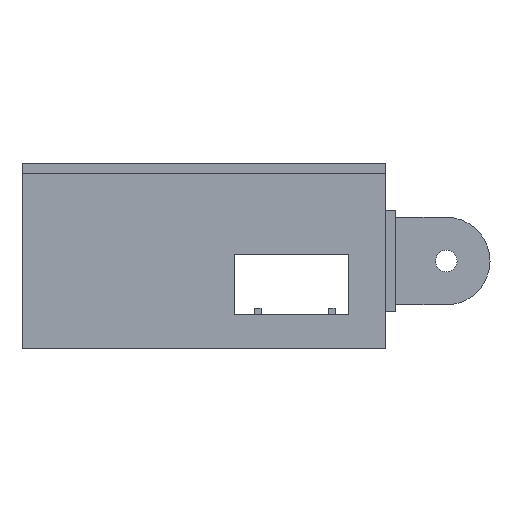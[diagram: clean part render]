
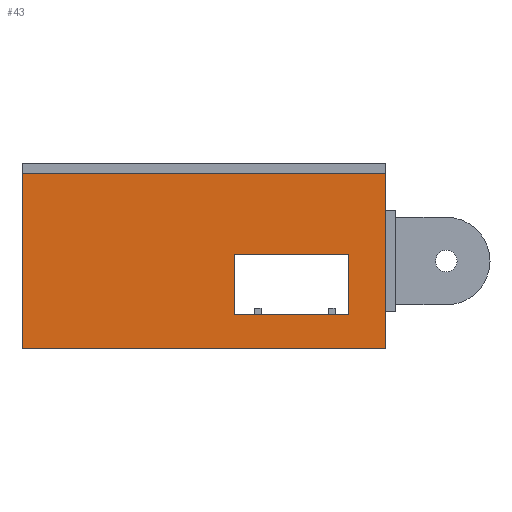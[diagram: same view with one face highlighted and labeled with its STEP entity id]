
A CAD part, left-side view. The second image highlights one B-rep face of the part: STEP entity #43.
In plain terms, the highlighted planar face has unit normal (-1, 0, 0).
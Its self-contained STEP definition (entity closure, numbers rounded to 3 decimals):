
#43 = ADVANCED_FACE('',(#44,#163),#58,.F.);
#44 = FACE_BOUND('',#45,.F.);
#45 = EDGE_LOOP('',(#46,#81,#109,#137));
#46 = ORIENTED_EDGE('',*,*,#47,.F.);
#47 = EDGE_CURVE('',#48,#50,#52,.T.);
#48 = VERTEX_POINT('',#49);
#49 = CARTESIAN_POINT('',(0.,0.,0.));
#50 = VERTEX_POINT('',#51);
#51 = CARTESIAN_POINT('',(0.,0.,52.));
#52 = SURFACE_CURVE('',#53,(#57,#69),.PCURVE_S1.);
#53 = LINE('',#54,#55);
#54 = CARTESIAN_POINT('',(0.,0.,0.));
#55 = VECTOR('',#56,1.);
#56 = DIRECTION('',(0.,0.,1.));
#57 = PCURVE('',#58,#63);
#58 = PLANE('',#59);
#59 = AXIS2_PLACEMENT_3D('',#60,#61,#62);
#60 = CARTESIAN_POINT('',(0.,0.,0.));
#61 = DIRECTION('',(1.,0.,0.));
#62 = DIRECTION('',(0.,0.,1.));
#63 = DEFINITIONAL_REPRESENTATION('',(#64),#68);
#64 = LINE('',#65,#66);
#65 = CARTESIAN_POINT('',(0.,0.));
#66 = VECTOR('',#67,1.);
#67 = DIRECTION('',(1.,0.));
#68 = ( GEOMETRIC_REPRESENTATION_CONTEXT(2) 
PARAMETRIC_REPRESENTATION_CONTEXT() REPRESENTATION_CONTEXT('2D SPACE',''
  ) );
#69 = PCURVE('',#70,#75);
#70 = PLANE('',#71);
#71 = AXIS2_PLACEMENT_3D('',#72,#73,#74);
#72 = CARTESIAN_POINT('',(0.,0.,0.));
#73 = DIRECTION('',(0.,1.,0.));
#74 = DIRECTION('',(0.,0.,1.));
#75 = DEFINITIONAL_REPRESENTATION('',(#76),#80);
#76 = LINE('',#77,#78);
#77 = CARTESIAN_POINT('',(0.,0.));
#78 = VECTOR('',#79,1.);
#79 = DIRECTION('',(1.,0.));
#80 = ( GEOMETRIC_REPRESENTATION_CONTEXT(2) 
PARAMETRIC_REPRESENTATION_CONTEXT() REPRESENTATION_CONTEXT('2D SPACE',''
  ) );
#81 = ORIENTED_EDGE('',*,*,#82,.T.);
#82 = EDGE_CURVE('',#48,#83,#85,.T.);
#83 = VERTEX_POINT('',#84);
#84 = CARTESIAN_POINT('',(0.,108.,0.));
#85 = SURFACE_CURVE('',#86,(#90,#97),.PCURVE_S1.);
#86 = LINE('',#87,#88);
#87 = CARTESIAN_POINT('',(0.,0.,0.));
#88 = VECTOR('',#89,1.);
#89 = DIRECTION('',(0.,1.,0.));
#90 = PCURVE('',#58,#91);
#91 = DEFINITIONAL_REPRESENTATION('',(#92),#96);
#92 = LINE('',#93,#94);
#93 = CARTESIAN_POINT('',(0.,0.));
#94 = VECTOR('',#95,1.);
#95 = DIRECTION('',(0.,-1.));
#96 = ( GEOMETRIC_REPRESENTATION_CONTEXT(2) 
PARAMETRIC_REPRESENTATION_CONTEXT() REPRESENTATION_CONTEXT('2D SPACE',''
  ) );
#97 = PCURVE('',#98,#103);
#98 = PLANE('',#99);
#99 = AXIS2_PLACEMENT_3D('',#100,#101,#102);
#100 = CARTESIAN_POINT('',(0.,0.,0.));
#101 = DIRECTION('',(0.,0.,1.));
#102 = DIRECTION('',(1.,0.,0.));
#103 = DEFINITIONAL_REPRESENTATION('',(#104),#108);
#104 = LINE('',#105,#106);
#105 = CARTESIAN_POINT('',(0.,0.));
#106 = VECTOR('',#107,1.);
#107 = DIRECTION('',(0.,1.));
#108 = ( GEOMETRIC_REPRESENTATION_CONTEXT(2) 
PARAMETRIC_REPRESENTATION_CONTEXT() REPRESENTATION_CONTEXT('2D SPACE',''
  ) );
#109 = ORIENTED_EDGE('',*,*,#110,.F.);
#110 = EDGE_CURVE('',#111,#83,#113,.T.);
#111 = VERTEX_POINT('',#112);
#112 = CARTESIAN_POINT('',(0.,108.,52.));
#113 = SURFACE_CURVE('',#114,(#118,#125),.PCURVE_S1.);
#114 = LINE('',#115,#116);
#115 = CARTESIAN_POINT('',(0.,108.,52.));
#116 = VECTOR('',#117,1.);
#117 = DIRECTION('',(0.,0.,-1.));
#118 = PCURVE('',#58,#119);
#119 = DEFINITIONAL_REPRESENTATION('',(#120),#124);
#120 = LINE('',#121,#122);
#121 = CARTESIAN_POINT('',(52.,-108.));
#122 = VECTOR('',#123,1.);
#123 = DIRECTION('',(-1.,0.));
#124 = ( GEOMETRIC_REPRESENTATION_CONTEXT(2) 
PARAMETRIC_REPRESENTATION_CONTEXT() REPRESENTATION_CONTEXT('2D SPACE',''
  ) );
#125 = PCURVE('',#126,#131);
#126 = PLANE('',#127);
#127 = AXIS2_PLACEMENT_3D('',#128,#129,#130);
#128 = CARTESIAN_POINT('',(0.,108.,0.));
#129 = DIRECTION('',(0.,1.,0.));
#130 = DIRECTION('',(0.,0.,1.));
#131 = DEFINITIONAL_REPRESENTATION('',(#132),#136);
#132 = LINE('',#133,#134);
#133 = CARTESIAN_POINT('',(52.,0.));
#134 = VECTOR('',#135,1.);
#135 = DIRECTION('',(-1.,0.));
#136 = ( GEOMETRIC_REPRESENTATION_CONTEXT(2) 
PARAMETRIC_REPRESENTATION_CONTEXT() REPRESENTATION_CONTEXT('2D SPACE',''
  ) );
#137 = ORIENTED_EDGE('',*,*,#138,.F.);
#138 = EDGE_CURVE('',#50,#111,#139,.T.);
#139 = SURFACE_CURVE('',#140,(#144,#151),.PCURVE_S1.);
#140 = LINE('',#141,#142);
#141 = CARTESIAN_POINT('',(0.,0.,52.));
#142 = VECTOR('',#143,1.);
#143 = DIRECTION('',(0.,1.,0.));
#144 = PCURVE('',#58,#145);
#145 = DEFINITIONAL_REPRESENTATION('',(#146),#150);
#146 = LINE('',#147,#148);
#147 = CARTESIAN_POINT('',(52.,0.));
#148 = VECTOR('',#149,1.);
#149 = DIRECTION('',(0.,-1.));
#150 = ( GEOMETRIC_REPRESENTATION_CONTEXT(2) 
PARAMETRIC_REPRESENTATION_CONTEXT() REPRESENTATION_CONTEXT('2D SPACE',''
  ) );
#151 = PCURVE('',#152,#157);
#152 = PLANE('',#153);
#153 = AXIS2_PLACEMENT_3D('',#154,#155,#156);
#154 = CARTESIAN_POINT('',(0.,0.,52.));
#155 = DIRECTION('',(0.,0.,1.));
#156 = DIRECTION('',(1.,0.,0.));
#157 = DEFINITIONAL_REPRESENTATION('',(#158),#162);
#158 = LINE('',#159,#160);
#159 = CARTESIAN_POINT('',(0.,0.));
#160 = VECTOR('',#161,1.);
#161 = DIRECTION('',(0.,1.));
#162 = ( GEOMETRIC_REPRESENTATION_CONTEXT(2) 
PARAMETRIC_REPRESENTATION_CONTEXT() REPRESENTATION_CONTEXT('2D SPACE',''
  ) );
#163 = FACE_BOUND('',#164,.F.);
#164 = EDGE_LOOP('',(#165,#194,#221,#248));
#165 = ORIENTED_EDGE('',*,*,#166,.T.);
#166 = EDGE_CURVE('',#167,#169,#171,.T.);
#167 = VERTEX_POINT('',#168);
#168 = CARTESIAN_POINT('',(0.,11.,10.));
#169 = VERTEX_POINT('',#170);
#170 = CARTESIAN_POINT('',(0.,11.,28.));
#171 = SURFACE_CURVE('',#172,(#176,#183),.PCURVE_S1.);
#172 = LINE('',#173,#174);
#173 = CARTESIAN_POINT('',(0.,11.,6.5));
#174 = VECTOR('',#175,1.);
#175 = DIRECTION('',(0.,0.,1.));
#176 = PCURVE('',#58,#177);
#177 = DEFINITIONAL_REPRESENTATION('',(#178),#182);
#178 = LINE('',#179,#180);
#179 = CARTESIAN_POINT('',(6.5,-11.));
#180 = VECTOR('',#181,1.);
#181 = DIRECTION('',(1.,0.));
#182 = ( GEOMETRIC_REPRESENTATION_CONTEXT(2) 
PARAMETRIC_REPRESENTATION_CONTEXT() REPRESENTATION_CONTEXT('2D SPACE',''
  ) );
#183 = PCURVE('',#184,#189);
#184 = PLANE('',#185);
#185 = AXIS2_PLACEMENT_3D('',#186,#187,#188);
#186 = CARTESIAN_POINT('',(-1.,11.,10.));
#187 = DIRECTION('',(0.,1.,0.));
#188 = DIRECTION('',(0.,0.,1.));
#189 = DEFINITIONAL_REPRESENTATION('',(#190),#193);
#190 = B_SPLINE_CURVE_WITH_KNOTS('',1,(#191,#192),.UNSPECIFIED.,.F.,.F.,
  (2,2),(3.5,21.5),.PIECEWISE_BEZIER_KNOTS.);
#191 = CARTESIAN_POINT('',(0.,1.));
#192 = CARTESIAN_POINT('',(18.,1.));
#193 = ( GEOMETRIC_REPRESENTATION_CONTEXT(2) 
PARAMETRIC_REPRESENTATION_CONTEXT() REPRESENTATION_CONTEXT('2D SPACE',''
  ) );
#194 = ORIENTED_EDGE('',*,*,#195,.F.);
#195 = EDGE_CURVE('',#196,#169,#198,.T.);
#196 = VERTEX_POINT('',#197);
#197 = CARTESIAN_POINT('',(0.,45.,28.));
#198 = SURFACE_CURVE('',#199,(#203,#210),.PCURVE_S1.);
#199 = LINE('',#200,#201);
#200 = CARTESIAN_POINT('',(0.,5.5,28.));
#201 = VECTOR('',#202,1.);
#202 = DIRECTION('',(0.,-1.,0.));
#203 = PCURVE('',#58,#204);
#204 = DEFINITIONAL_REPRESENTATION('',(#205),#209);
#205 = LINE('',#206,#207);
#206 = CARTESIAN_POINT('',(28.,-5.5));
#207 = VECTOR('',#208,1.);
#208 = DIRECTION('',(0.,1.));
#209 = ( GEOMETRIC_REPRESENTATION_CONTEXT(2) 
PARAMETRIC_REPRESENTATION_CONTEXT() REPRESENTATION_CONTEXT('2D SPACE',''
  ) );
#210 = PCURVE('',#211,#216);
#211 = PLANE('',#212);
#212 = AXIS2_PLACEMENT_3D('',#213,#214,#215);
#213 = CARTESIAN_POINT('',(-1.,11.,28.));
#214 = DIRECTION('',(0.,0.,1.));
#215 = DIRECTION('',(1.,0.,0.));
#216 = DEFINITIONAL_REPRESENTATION('',(#217),#220);
#217 = B_SPLINE_CURVE_WITH_KNOTS('',1,(#218,#219),.UNSPECIFIED.,.F.,.F.,
  (2,2),(-39.5,-5.5),.PIECEWISE_BEZIER_KNOTS.);
#218 = CARTESIAN_POINT('',(1.,34.));
#219 = CARTESIAN_POINT('',(1.,0.));
#220 = ( GEOMETRIC_REPRESENTATION_CONTEXT(2) 
PARAMETRIC_REPRESENTATION_CONTEXT() REPRESENTATION_CONTEXT('2D SPACE',''
  ) );
#221 = ORIENTED_EDGE('',*,*,#222,.F.);
#222 = EDGE_CURVE('',#223,#196,#225,.T.);
#223 = VERTEX_POINT('',#224);
#224 = CARTESIAN_POINT('',(0.,45.,10.));
#225 = SURFACE_CURVE('',#226,(#230,#237),.PCURVE_S1.);
#226 = LINE('',#227,#228);
#227 = CARTESIAN_POINT('',(0.,45.,6.5));
#228 = VECTOR('',#229,1.);
#229 = DIRECTION('',(0.,0.,1.));
#230 = PCURVE('',#58,#231);
#231 = DEFINITIONAL_REPRESENTATION('',(#232),#236);
#232 = LINE('',#233,#234);
#233 = CARTESIAN_POINT('',(6.5,-45.));
#234 = VECTOR('',#235,1.);
#235 = DIRECTION('',(1.,0.));
#236 = ( GEOMETRIC_REPRESENTATION_CONTEXT(2) 
PARAMETRIC_REPRESENTATION_CONTEXT() REPRESENTATION_CONTEXT('2D SPACE',''
  ) );
#237 = PCURVE('',#238,#243);
#238 = PLANE('',#239);
#239 = AXIS2_PLACEMENT_3D('',#240,#241,#242);
#240 = CARTESIAN_POINT('',(-1.,45.,10.));
#241 = DIRECTION('',(0.,1.,0.));
#242 = DIRECTION('',(0.,0.,1.));
#243 = DEFINITIONAL_REPRESENTATION('',(#244),#247);
#244 = B_SPLINE_CURVE_WITH_KNOTS('',1,(#245,#246),.UNSPECIFIED.,.F.,.F.,
  (2,2),(3.5,21.5),.PIECEWISE_BEZIER_KNOTS.);
#245 = CARTESIAN_POINT('',(0.,1.));
#246 = CARTESIAN_POINT('',(18.,1.));
#247 = ( GEOMETRIC_REPRESENTATION_CONTEXT(2) 
PARAMETRIC_REPRESENTATION_CONTEXT() REPRESENTATION_CONTEXT('2D SPACE',''
  ) );
#248 = ORIENTED_EDGE('',*,*,#249,.T.);
#249 = EDGE_CURVE('',#223,#167,#250,.T.);
#250 = SURFACE_CURVE('',#251,(#255,#262),.PCURVE_S1.);
#251 = LINE('',#252,#253);
#252 = CARTESIAN_POINT('',(0.,5.5,10.));
#253 = VECTOR('',#254,1.);
#254 = DIRECTION('',(0.,-1.,0.));
#255 = PCURVE('',#58,#256);
#256 = DEFINITIONAL_REPRESENTATION('',(#257),#261);
#257 = LINE('',#258,#259);
#258 = CARTESIAN_POINT('',(10.,-5.5));
#259 = VECTOR('',#260,1.);
#260 = DIRECTION('',(0.,1.));
#261 = ( GEOMETRIC_REPRESENTATION_CONTEXT(2) 
PARAMETRIC_REPRESENTATION_CONTEXT() REPRESENTATION_CONTEXT('2D SPACE',''
  ) );
#262 = PCURVE('',#263,#268);
#263 = PLANE('',#264);
#264 = AXIS2_PLACEMENT_3D('',#265,#266,#267);
#265 = CARTESIAN_POINT('',(-1.,11.,10.));
#266 = DIRECTION('',(0.,0.,1.));
#267 = DIRECTION('',(1.,0.,0.));
#268 = DEFINITIONAL_REPRESENTATION('',(#269),#272);
#269 = B_SPLINE_CURVE_WITH_KNOTS('',1,(#270,#271),.UNSPECIFIED.,.F.,.F.,
  (2,2),(-39.5,-5.5),.PIECEWISE_BEZIER_KNOTS.);
#270 = CARTESIAN_POINT('',(1.,34.));
#271 = CARTESIAN_POINT('',(1.,0.));
#272 = ( GEOMETRIC_REPRESENTATION_CONTEXT(2) 
PARAMETRIC_REPRESENTATION_CONTEXT() REPRESENTATION_CONTEXT('2D SPACE',''
  ) );
